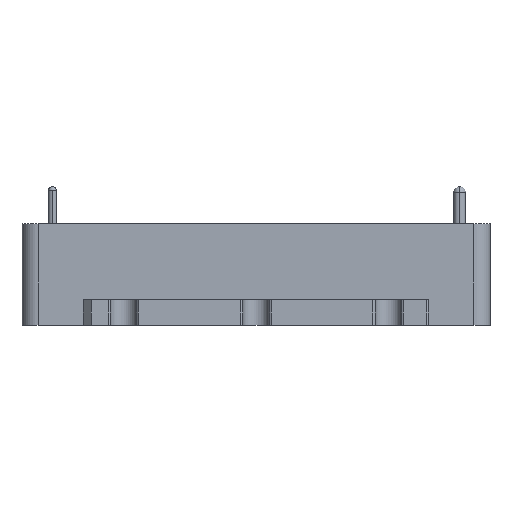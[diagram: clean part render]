
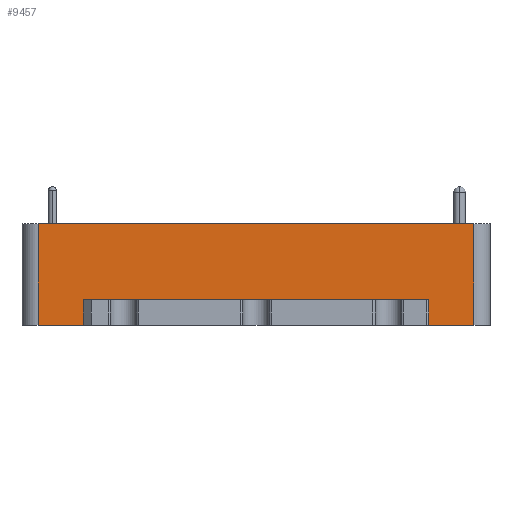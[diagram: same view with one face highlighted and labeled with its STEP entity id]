
A CAD part, front view. The second image highlights one B-rep face of the part: STEP entity #9457.
In plain terms, the highlighted planar face has unit normal (0, -1, 0).
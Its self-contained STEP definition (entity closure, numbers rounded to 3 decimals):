
#299 = AXIS2_PLACEMENT_3D ( 'NONE', #3309, #3463, #7472 ) ;
#508 = ORIENTED_EDGE ( 'NONE', *, *, #13597, .F. ) ;
#542 = VECTOR ( 'NONE', #8437, 1000. ) ;
#596 = LINE ( 'NONE', #5957, #542 ) ;
#745 = VERTEX_POINT ( 'NONE', #10410 ) ;
#1194 = ORIENTED_EDGE ( 'NONE', *, *, #12737, .F. ) ;
#1964 = CARTESIAN_POINT ( 'NONE',  ( 0., -18.4, -8.2 ) ) ;
#1975 = EDGE_CURVE ( 'NONE', #9968, #7562, #8023, .T. ) ;
#2042 = LINE ( 'NONE', #1964, #16301 ) ;
#2495 = DIRECTION ( 'NONE',  ( 0., 0., 1. ) ) ;
#2633 = EDGE_CURVE ( 'NONE', #14444, #6283, #16599, .T. ) ;
#3118 = DIRECTION ( 'NONE',  ( 0., 0., 1. ) ) ;
#3225 = LINE ( 'NONE', #8427, #5313 ) ;
#3309 = CARTESIAN_POINT ( 'NONE',  ( -27.2, -18.4, -75.028 ) ) ;
#3463 = DIRECTION ( 'NONE',  ( 0., -1., 0. ) ) ;
#3920 = VERTEX_POINT ( 'NONE', #8075 ) ;
#4063 = EDGE_CURVE ( 'NONE', #6283, #6847, #10092, .T. ) ;
#4139 = ORIENTED_EDGE ( 'NONE', *, *, #4063, .F. ) ;
#4181 = EDGE_CURVE ( 'NONE', #6748, #4348, #8894, .T. ) ;
#4238 = EDGE_CURVE ( 'NONE', #7562, #745, #10426, .T. ) ;
#4348 = VERTEX_POINT ( 'NONE', #8038 ) ;
#4602 = VECTOR ( 'NONE', #4947, 1000. ) ;
#4624 = VECTOR ( 'NONE', #7053, 1000. ) ;
#4947 = DIRECTION ( 'NONE',  ( 1., 0., 0. ) ) ;
#5313 = VECTOR ( 'NONE', #12587, 1000. ) ;
#5857 = PLANE ( 'NONE',  #299 ) ;
#5957 = CARTESIAN_POINT ( 'NONE',  ( 21.58, -18.4, -8.2 ) ) ;
#6234 = LINE ( 'NONE', #16637, #4602 ) ;
#6283 = VERTEX_POINT ( 'NONE', #9446 ) ;
#6357 = EDGE_CURVE ( 'NONE', #6748, #3920, #3225, .T. ) ;
#6748 = VERTEX_POINT ( 'NONE', #14963 ) ;
#6796 = VECTOR ( 'NONE', #3118, 1000. ) ;
#6846 = CARTESIAN_POINT ( 'NONE',  ( 0., -18.4, -8.2 ) ) ;
#6847 = VERTEX_POINT ( 'NONE', #10101 ) ;
#7053 = DIRECTION ( 'NONE',  ( -1., 0., 0. ) ) ;
#7066 = VECTOR ( 'NONE', #12030, 1000. ) ;
#7168 = DIRECTION ( 'NONE',  ( -1., 0., 0. ) ) ;
#7472 = DIRECTION ( 'NONE',  ( 1., 0., 0. ) ) ;
#7562 = VERTEX_POINT ( 'NONE', #8461 ) ;
#8023 = LINE ( 'NONE', #6846, #7066 ) ;
#8038 = CARTESIAN_POINT ( 'NONE',  ( 27.2, -18.4, 3.5 ) ) ;
#8075 = CARTESIAN_POINT ( 'NONE',  ( 21.58, -18.4, -9.2 ) ) ;
#8427 = CARTESIAN_POINT ( 'NONE',  ( -27.2, -18.4, -9.2 ) ) ;
#8437 = DIRECTION ( 'NONE',  ( 0., 0., -1. ) ) ;
#8461 = CARTESIAN_POINT ( 'NONE',  ( 21.555, -18.4, -8.2 ) ) ;
#8760 = ORIENTED_EDGE ( 'NONE', *, *, #6357, .F. ) ;
#8814 = CARTESIAN_POINT ( 'NONE',  ( 21.58, -18.4, -8.2 ) ) ;
#8816 = CARTESIAN_POINT ( 'NONE',  ( -27.2, -18.4, -9.2 ) ) ;
#8894 = LINE ( 'NONE', #15701, #10902 ) ;
#8977 = VECTOR ( 'NONE', #11448, 1000. ) ;
#9094 = CARTESIAN_POINT ( 'NONE',  ( -27.2, -18.4, 3.5 ) ) ;
#9147 = CARTESIAN_POINT ( 'NONE',  ( 0., -18.4, -8.2 ) ) ;
#9446 = CARTESIAN_POINT ( 'NONE',  ( -21.58, -18.4, -9.2 ) ) ;
#9457 = ADVANCED_FACE ( 'NONE', ( #16247 ), #5857, .T. ) ;
#9544 = ORIENTED_EDGE ( 'NONE', *, *, #1975, .F. ) ;
#9968 = VERTEX_POINT ( 'NONE', #8814 ) ;
#10092 = LINE ( 'NONE', #8816, #4624 ) ;
#10101 = CARTESIAN_POINT ( 'NONE',  ( -27.2, -18.4, -9.2 ) ) ;
#10410 = CARTESIAN_POINT ( 'NONE',  ( -21.555, -18.4, -8.2 ) ) ;
#10426 = LINE ( 'NONE', #9147, #8977 ) ;
#10571 = CARTESIAN_POINT ( 'NONE',  ( -21.58, -18.4, -8.2 ) ) ;
#10731 = ORIENTED_EDGE ( 'NONE', *, *, #13351, .F. ) ;
#10902 = VECTOR ( 'NONE', #2495, 1000. ) ;
#11448 = DIRECTION ( 'NONE',  ( -1., 0., 0. ) ) ;
#11523 = ORIENTED_EDGE ( 'NONE', *, *, #2633, .F. ) ;
#11537 = ORIENTED_EDGE ( 'NONE', *, *, #4238, .F. ) ;
#12030 = DIRECTION ( 'NONE',  ( -1., 0., 0. ) ) ;
#12587 = DIRECTION ( 'NONE',  ( -1., 0., 0. ) ) ;
#12672 = CARTESIAN_POINT ( 'NONE',  ( -21.58, -18.4, -8.2 ) ) ;
#12737 = EDGE_CURVE ( 'NONE', #6847, #15358, #14790, .T. ) ;
#13351 = EDGE_CURVE ( 'NONE', #15358, #4348, #6234, .T. ) ;
#13597 = EDGE_CURVE ( 'NONE', #745, #14444, #2042, .T. ) ;
#13662 = ORIENTED_EDGE ( 'NONE', *, *, #16169, .T. ) ;
#13951 = DIRECTION ( 'NONE',  ( 0., 0., -1. ) ) ;
#14444 = VERTEX_POINT ( 'NONE', #10571 ) ;
#14790 = LINE ( 'NONE', #15978, #6796 ) ;
#14963 = CARTESIAN_POINT ( 'NONE',  ( 27.2, -18.4, -9.2 ) ) ;
#15358 = VERTEX_POINT ( 'NONE', #9094 ) ;
#15701 = CARTESIAN_POINT ( 'NONE',  ( 27.2, -18.4, -75.028 ) ) ;
#15838 = ORIENTED_EDGE ( 'NONE', *, *, #4181, .T. ) ;
#15978 = CARTESIAN_POINT ( 'NONE',  ( -27.2, -18.4, -75.028 ) ) ;
#16169 = EDGE_CURVE ( 'NONE', #9968, #3920, #596, .T. ) ;
#16243 = VECTOR ( 'NONE', #13951, 1000. ) ;
#16247 = FACE_OUTER_BOUND ( 'NONE', #16730, .T. ) ;
#16301 = VECTOR ( 'NONE', #7168, 1000. ) ;
#16599 = LINE ( 'NONE', #12672, #16243 ) ;
#16637 = CARTESIAN_POINT ( 'NONE',  ( -27.2, -18.4, 3.5 ) ) ;
#16730 = EDGE_LOOP ( 'NONE', ( #1194, #4139, #11523, #508, #11537, #9544, #13662, #8760, #15838, #10731 ) ) ;
